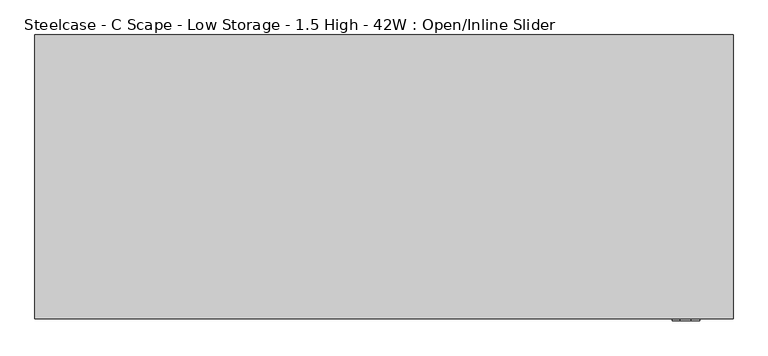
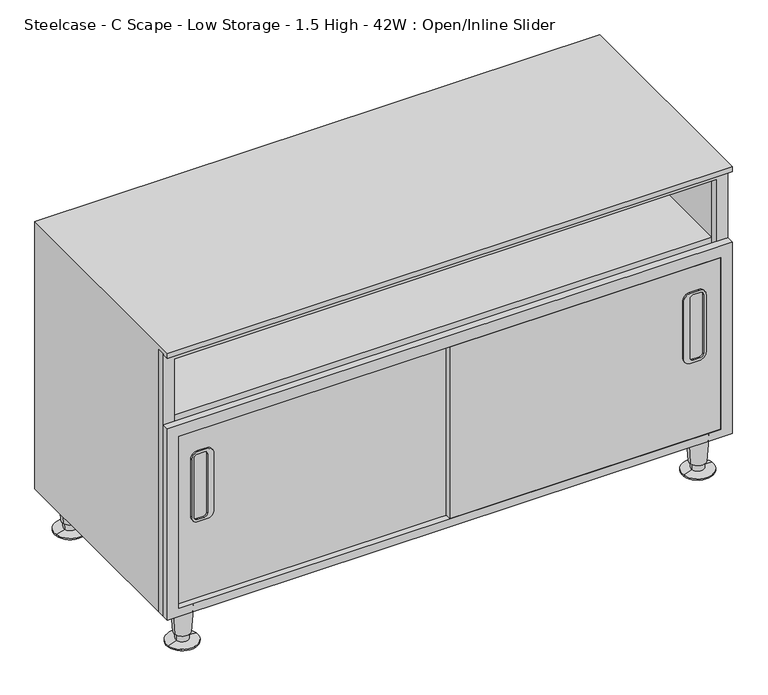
"""IFC4 building model written with IfcOpenShell, lengths in millimetres: furniture geometry, Steelcase - C Scape - Low Storage - 1.5 High - 42W : Open/Inline Slider."""

from ifc_helpers import new_model, si_unit, point, frame, frame_2d, origin, place, context, project, spatial, polyline, circle_curve, trimmed, segment, composite_curve, outline, extrude, faceted_brep, source, transform, mapped, element, save
from ifc_brep_helpers import plane_surface, cylinder_surface, revolved_surface, advanced_brep


def steelcase_c_scape_low_storage_1_5_high_42w_open_inline_7f5d4c98(model_context):
    return source(origin(), model_context, "Body", "SolidModel", [
        extrude(outline(composite_curve([segment(polyline([(373.5963095, 972.3248301), (259.2993979, 972.3248301)]), True, "CONTINUOUS"), segment(trimmed(circle_curve(frame_2d((259.2993979, 985.0263804)), 12.7015503), [point((259.2993979, 972.3248301))], [point((246.5978477, 985.0263804))], False, "CARTESIAN"), True, "CONTINUOUS"), segment(polyline([(246.5978477, 985.0263804), (246.5978477, 1001.9160471)]), True, "CONTINUOUS"), segment(trimmed(circle_curve(frame_2d((259.2970725, 1001.9160471)), 12.6992249), [point((246.5978477, 1001.9160471))], [point((259.2970725, 1014.615272))], False, "CARTESIAN"), True, "CONTINUOUS"), segment(polyline([(259.2970725, 1014.615272), (373.5986349, 1014.615272)]), True, "CONTINUOUS"), segment(trimmed(circle_curve(frame_2d((373.5986349, 1001.9160471)), 12.6992249), [point((373.5986349, 1014.615272))], [point((386.2978598, 1001.9160471))], False, "CARTESIAN"), True, "CONTINUOUS"), segment(polyline([(386.2978598, 1001.9160471), (386.2978598, 985.0263804)]), True, "CONTINUOUS"), segment(trimmed(circle_curve(frame_2d((373.5963095, 985.0263804)), 12.7015503), [point((386.2978598, 985.0263804))], [point((373.5963095, 972.3248301))], False, "CARTESIAN"), True, "CONTINUOUS")], self_intersect=False), holes=[composite_curve([segment(polyline([(257.7449507, 984.3915354), (375.0960362, 984.3915354)]), True, "CONTINUOUS"), segment(trimmed(circle_curve(frame_2d((375.0960362, 990.7399851)), 6.3484497), [point((375.0960362, 984.3915354))], [point((381.444486, 990.7399851))], True, "CARTESIAN"), True, "CONTINUOUS"), segment(polyline([(381.444486, 990.7399851), (381.444486, 1003.4415354)]), True, "CONTINUOUS"), segment(trimmed(circle_curve(frame_2d((375.0960362, 1003.4415354)), 6.3484497), [point((381.444486, 1003.4415354))], [point((375.0960362, 1009.7899851))], True, "CARTESIAN"), True, "CONTINUOUS"), segment(polyline([(375.0960362, 1009.7899851), (257.7449507, 1009.7899851)]), True, "CONTINUOUS"), segment(trimmed(circle_curve(frame_2d((257.7449507, 1003.4415354)), 6.3484497), [point((257.7449507, 1009.7899851))], [point((251.396501, 1003.4415354))], True, "CARTESIAN"), True, "CONTINUOUS"), segment(polyline([(251.396501, 1003.4415354), (251.396501, 990.7399851)]), True, "CONTINUOUS"), segment(trimmed(circle_curve(frame_2d((257.7449507, 990.7399851)), 6.3484497), [point((251.396501, 990.7399851))], [point((257.7449507, 984.3915354))], True, "CARTESIAN"), True, "CONTINUOUS")], self_intersect=False)]), frame((0.0, -436.1123329, 0.0), z_axis=(0.0, 1.0, 0.0), x_axis=(0.0, 0.0, 1.0)), (0.0, 0.0, 1.0), 3.0423329),
        extrude(outline(composite_curve([segment(trimmed(circle_curve(frame_2d((373.5963095, 79.8686196)), 12.7015503), [point((373.5963095, 92.5701699))], [point((386.2978598, 79.8686196))], False, "CARTESIAN"), True, "CONTINUOUS"), segment(polyline([(386.2978598, 79.8686196), (386.2978598, 62.9789529)]), True, "CONTINUOUS"), segment(trimmed(circle_curve(frame_2d((373.5986349, 62.9789529)), 12.6992249), [point((386.2978598, 62.9789529))], [point((373.5986349, 50.279728))], False, "CARTESIAN"), True, "CONTINUOUS"), segment(polyline([(373.5986349, 50.279728), (259.2970725, 50.279728)]), True, "CONTINUOUS"), segment(trimmed(circle_curve(frame_2d((259.2970725, 62.9789529)), 12.6992249), [point((259.2970725, 50.279728))], [point((246.5978477, 62.9789529))], False, "CARTESIAN"), True, "CONTINUOUS"), segment(polyline([(246.5978477, 62.9789529), (246.5978477, 79.8686196)]), True, "CONTINUOUS"), segment(trimmed(circle_curve(frame_2d((259.2993979, 79.8686196)), 12.7015503), [point((246.5978477, 79.8686196))], [point((259.2993979, 92.5701699))], False, "CARTESIAN"), True, "CONTINUOUS"), segment(polyline([(259.2993979, 92.5701699), (373.5963095, 92.5701699)]), True, "CONTINUOUS")], self_intersect=False), holes=[composite_curve([segment(trimmed(circle_curve(frame_2d((257.7449507, 74.1550149)), 6.3484497), [point((257.7449507, 80.5034646))], [point((251.396501, 74.1550149))], True, "CARTESIAN"), True, "CONTINUOUS"), segment(polyline([(251.396501, 74.1550149), (251.396501, 61.4534646)]), True, "CONTINUOUS"), segment(trimmed(circle_curve(frame_2d((257.7449507, 61.4534646)), 6.3484497), [point((251.396501, 61.4534646))], [point((257.7449507, 55.1050149))], True, "CARTESIAN"), True, "CONTINUOUS"), segment(polyline([(257.7449507, 55.1050149), (375.0960362, 55.1050149)]), True, "CONTINUOUS"), segment(trimmed(circle_curve(frame_2d((375.0960362, 61.4534646)), 6.3484497), [point((375.0960362, 55.1050149))], [point((381.444486, 61.4534646))], True, "CARTESIAN"), True, "CONTINUOUS"), segment(polyline([(381.444486, 61.4534646), (381.444486, 74.1550149)]), True, "CONTINUOUS"), segment(trimmed(circle_curve(frame_2d((375.0960362, 74.1550149)), 6.3484497), [point((381.444486, 74.1550149))], [point((375.0960362, 80.5034646))], True, "CARTESIAN"), True, "CONTINUOUS"), segment(polyline([(375.0960362, 80.5034646), (257.7449507, 80.5034646)]), True, "CONTINUOUS")], self_intersect=False)]), frame((0.0, -424.6923408, 0.0), z_axis=(0.0, 1.0, 0.0), x_axis=(0.0, 0.0, 1.0)), (0.0, 0.0, 1.0), 3.048),
        extrude(outline(polyline([(76.1999955, 0.0), (76.1999955, 1065.53), (458.7875121, 1065.53), (458.7875121, 0.0), (76.1999955, 0.0)]), holes=[polyline([(92.7100024, 1043.5617285), (92.7100024, 21.3382324), (435.8005068, 21.3382324), (435.8005068, 1043.5617285), (92.7100024, 1043.5617285)])]), frame((0.0, -433.07, 0.0), z_axis=(0.0, 1.0, 0.0), x_axis=(0.0, 0.0, 1.0)), (0.0, 0.0, 1.0), 13.7215265),
        extrude(outline(polyline([(599.44, 532.2710512), (599.44, 0.0), (76.1999955, 0.0), (76.1999955, 1065.53), (599.44, 1065.53), (599.44, 532.2710512)]), holes=[polyline([(92.7100024, 1043.5617285), (92.7100024, 21.3382324), (582.93, 21.3382324), (582.93, 1043.5617285), (92.7100024, 1043.5617285)])]), frame((0.0, -419.3484735, 0.0), z_axis=(0.0, 1.0, 0.0), x_axis=(0.0, 0.0, 1.0)), (0.0, 0.0, 1.0), 14.9862946),
        advanced_brep(
        [(1038.2598695, -31.5218435, 76.2), (1000.5981305, -37.2840847, 76.2), (1019.429, -34.4029641, 76.2), (1034.3095214, -32.1262463, 19.05), (1004.5484786, -36.6796819, 19.05), (1031.8799345, -32.4979728, 19.05), (1006.9780655, -36.3079555, 19.05), (1031.191165, -32.6033544, 5.7545598), (1007.666835, -36.2025738, 5.7545598), (1048.5400485, -29.9489775, 2.5119506), (990.3179515, -38.8569507, 2.5119506), (1048.5400485, -29.9489775, 0.0), (990.3179515, -38.8569507, 0.0), (1019.429, -34.4029641, 0.0)],
        [
            (0, 1, circle_curve(frame((1019.429, -34.4029641, 76.2), z_axis=(0.0, 0.0, 1.0), x_axis=(0.0, -1.0, 0.0)), 19.05)),
            (1, 2),
            (2, 0),
            (1, 0, circle_curve(frame((1019.429, -34.4029641, 76.2), z_axis=(0.0, 0.0, 1.0), x_axis=(0.0, -1.0, 0.0)), 19.05)),
            (3, 4, circle_curve(frame((1019.429, -34.4029641, 19.05), z_axis=(0.0, 0.0, 1.0), x_axis=(0.0, -1.0, 0.0)), 15.0536827)),
            (4, 1),
            (0, 3),
            (4, 3, circle_curve(frame((1019.429, -34.4029641, 19.05), z_axis=(0.0, 0.0, 1.0), x_axis=(0.0, -1.0, 0.0)), 15.0536827)),
            (5, 6, circle_curve(frame((1019.429, -34.4029641, 19.05), z_axis=(0.0, 0.0, 1.0), x_axis=(0.0, -1.0, 0.0)), 12.5958232)),
            (6, 4),
            (3, 5),
            (6, 5, circle_curve(frame((1019.429, -34.4029641, 19.05), z_axis=(0.0, 0.0, 1.0), x_axis=(0.0, -1.0, 0.0)), 12.5958232)),
            (7, 8, circle_curve(frame((1019.429, -34.4029641, 5.7545598), z_axis=(0.0, 0.0, 1.0), x_axis=(0.0, -1.0, 0.0)), 11.8990387)),
            (8, 6),
            (5, 7),
            (8, 7, circle_curve(frame((1019.429, -34.4029641, 5.7545598), z_axis=(0.0, 0.0, 1.0), x_axis=(0.0, -1.0, 0.0)), 11.8990387)),
            (9, 10, circle_curve(frame((1019.429, -34.4029641, 2.5119506), z_axis=(0.0, 0.0, 1.0), x_axis=(0.0, -1.0, 0.0)), 29.4498071)),
            (10, 8),
            (7, 9),
            (10, 9, circle_curve(frame((1019.429, -34.4029641, 2.5119506), z_axis=(0.0, 0.0, 1.0), x_axis=(0.0, -1.0, 0.0)), 29.4498071)),
            (11, 12, circle_curve(frame((1019.429, -34.4029641, 0.0), z_axis=(0.0, 0.0, 1.0), x_axis=(0.0, -1.0, 0.0)), 29.4498071)),
            (12, 10),
            (9, 11),
            (12, 11, circle_curve(frame((1019.429, -34.4029641, 0.0), z_axis=(0.0, 0.0, 1.0), x_axis=(0.0, -1.0, 0.0)), 29.4498071)),
            (13, 12),
            (11, 13),
        ],
        [
            plane_surface(frame((1019.429, -34.4029641, 76.2), z_axis=(0.0, 0.0, 1.0), x_axis=(0.0, -1.0, 0.0))),
            revolved_surface(polyline([(1019.429, -53.4529641, 76.2), (1019.429, -49.4566468, 19.05)]), (1019.429, -34.4029641, 25.4), (0.0, 0.0, -1.0)),
            plane_surface(frame((1019.429, -34.4029641, 19.05), z_axis=(0.0, 0.0, -1.0), x_axis=(0.0, -1.0, 0.0))),
            revolved_surface(polyline([(1019.429, -46.9987873, 19.05), (1019.429, -46.3020028, 5.7545598)]), (1019.429, -34.4029641, 25.4), (0.0, 0.0, -1.0)),
            revolved_surface(polyline([(1019.429, -46.3020028, 5.7545598), (1019.429, -63.8527712, 2.5119506)]), (1019.429, -34.4029641, 25.4), (0.0, 0.0, -1.0)),
            cylinder_surface(frame((1019.429, -34.4029641, 25.4), z_axis=(0.0, 0.0, -1.0), x_axis=(0.0, -1.0, 0.0)), 29.4498071),
            plane_surface(frame((1019.429, -34.4029641, 0.0), z_axis=(0.0, 0.0, -1.0), x_axis=(0.0, -1.0, 0.0))),
        ],
        [
            (0, [[1, 2, 3]]),
            (0, [[4, -3, -2]]),
            (1, [[5, 6, -1, 7]]),
            (1, [[8, -7, -4, -6]]),
            (2, [[9, 10, -5, 11]]),
            (2, [[12, -11, -8, -10]]),
            (3, [[13, 14, -9, 15]]),
            (3, [[16, -15, -12, -14]]),
            (4, [[17, 18, -13, 19]]),
            (4, [[20, -19, -16, -18]]),
            (5, [[21, 22, -17, 23]]),
            (5, [[24, -23, -20, -22]]),
            (6, [[25, -21, 26]]),
            (6, [[-26, -24, -25]]),
        ],
    ),
        advanced_brep(
        [(1038.2598695, -397.1702762, 76.2), (1000.5981305, -402.9325174, 76.2), (1019.429, -400.0513968, 76.2), (1034.3095214, -397.774679, 19.05), (1004.5484786, -402.3281146, 19.05), (1031.8799345, -398.1464055, 19.05), (1006.9780655, -401.9563882, 19.05), (1031.191165, -398.2517871, 5.7545598), (1007.666835, -401.8510065, 5.7545598), (1048.5400485, -395.5974102, 2.5119506), (990.3179515, -404.5053834, 2.5119506), (1048.5400485, -395.5974102, 0.0), (990.3179515, -404.5053834, 0.0), (1019.429, -400.0513968, 0.0)],
        [
            (0, 1, circle_curve(frame((1019.429, -400.0513968, 76.2), z_axis=(0.0, 0.0, 1.0), x_axis=(0.0, -1.0, 0.0)), 19.05)),
            (1, 2),
            (2, 0),
            (1, 0, circle_curve(frame((1019.429, -400.0513968, 76.2), z_axis=(0.0, 0.0, 1.0), x_axis=(0.0, -1.0, 0.0)), 19.05)),
            (3, 4, circle_curve(frame((1019.429, -400.0513968, 19.05), z_axis=(0.0, 0.0, 1.0), x_axis=(0.0, -1.0, 0.0)), 15.0536827)),
            (4, 1),
            (0, 3),
            (4, 3, circle_curve(frame((1019.429, -400.0513968, 19.05), z_axis=(0.0, 0.0, 1.0), x_axis=(0.0, -1.0, 0.0)), 15.0536827)),
            (5, 6, circle_curve(frame((1019.429, -400.0513968, 19.05), z_axis=(0.0, 0.0, 1.0), x_axis=(0.0, -1.0, 0.0)), 12.5958232)),
            (6, 4),
            (3, 5),
            (6, 5, circle_curve(frame((1019.429, -400.0513968, 19.05), z_axis=(0.0, 0.0, 1.0), x_axis=(0.0, -1.0, 0.0)), 12.5958232)),
            (7, 8, circle_curve(frame((1019.429, -400.0513968, 5.7545598), z_axis=(0.0, 0.0, 1.0), x_axis=(0.0, -1.0, 0.0)), 11.8990387)),
            (8, 6),
            (5, 7),
            (8, 7, circle_curve(frame((1019.429, -400.0513968, 5.7545598), z_axis=(0.0, 0.0, 1.0), x_axis=(0.0, -1.0, 0.0)), 11.8990387)),
            (9, 10, circle_curve(frame((1019.429, -400.0513968, 2.5119506), z_axis=(0.0, 0.0, 1.0), x_axis=(0.0, -1.0, 0.0)), 29.4498071)),
            (10, 8),
            (7, 9),
            (10, 9, circle_curve(frame((1019.429, -400.0513968, 2.5119506), z_axis=(0.0, 0.0, 1.0), x_axis=(0.0, -1.0, 0.0)), 29.4498071)),
            (11, 12, circle_curve(frame((1019.429, -400.0513968, 0.0), z_axis=(0.0, 0.0, 1.0), x_axis=(0.0, -1.0, 0.0)), 29.4498071)),
            (12, 10),
            (9, 11),
            (12, 11, circle_curve(frame((1019.429, -400.0513968, 0.0), z_axis=(0.0, 0.0, 1.0), x_axis=(0.0, -1.0, 0.0)), 29.4498071)),
            (13, 12),
            (11, 13),
        ],
        [
            plane_surface(frame((1019.429, -400.0513968, 76.2), z_axis=(0.0, 0.0, 1.0), x_axis=(0.0, -1.0, 0.0))),
            revolved_surface(polyline([(1019.429, -419.1013968, 76.2), (1019.429, -415.1050795, 19.05)]), (1019.429, -400.0513968, 25.4), (0.0, 0.0, -1.0)),
            plane_surface(frame((1019.429, -400.0513968, 19.05), z_axis=(0.0, 0.0, -1.0), x_axis=(0.0, -1.0, 0.0))),
            revolved_surface(polyline([(1019.429, -412.64722, 19.05), (1019.429, -411.9504355, 5.7545598)]), (1019.429, -400.0513968, 25.4), (0.0, 0.0, -1.0)),
            revolved_surface(polyline([(1019.429, -411.9504355, 5.7545598), (1019.429, -429.5012039, 2.5119506)]), (1019.429, -400.0513968, 25.4), (0.0, 0.0, -1.0)),
            cylinder_surface(frame((1019.429, -400.0513968, 25.4), z_axis=(0.0, 0.0, -1.0), x_axis=(0.0, -1.0, 0.0)), 29.4498071),
            plane_surface(frame((1019.429, -400.0513968, 0.0), z_axis=(0.0, 0.0, -1.0), x_axis=(0.0, -1.0, 0.0))),
        ],
        [
            (0, [[1, 2, 3]]),
            (0, [[4, -3, -2]]),
            (1, [[5, 6, -1, 7]]),
            (1, [[8, -7, -4, -6]]),
            (2, [[9, 10, -5, 11]]),
            (2, [[12, -11, -8, -10]]),
            (3, [[13, 14, -9, 15]]),
            (3, [[16, -15, -12, -14]]),
            (4, [[17, 18, -13, 19]]),
            (4, [[20, -19, -16, -18]]),
            (5, [[21, 22, -17, 23]]),
            (5, [[24, -23, -20, -22]]),
            (6, [[25, -21, 26]]),
            (6, [[-26, -24, -25]]),
        ],
    ),
        advanced_brep(
        [(65.5422821, -397.1702762, 76.2), (27.8805432, -402.9325174, 76.2), (46.7114126, -400.0513968, 76.2), (61.5919341, -397.774679, 19.05), (31.8308912, -402.3281146, 19.05), (59.1623471, -398.1464055, 19.05), (34.2604781, -401.9563882, 19.05), (58.4735776, -398.2517871, 5.7545598), (34.9492476, -401.8510065, 5.7545598), (75.8224611, -395.5974102, 2.5119506), (17.6003641, -404.5053834, 2.5119506), (75.8224611, -395.5974102, 0.0), (17.6003641, -404.5053834, 0.0), (46.7114126, -400.0513968, 0.0)],
        [
            (0, 1, circle_curve(frame((46.7114126, -400.0513968, 76.2), z_axis=(0.0, 0.0, 1.0), x_axis=(0.0, -1.0, 0.0)), 19.05)),
            (1, 2),
            (2, 0),
            (1, 0, circle_curve(frame((46.7114126, -400.0513968, 76.2), z_axis=(0.0, 0.0, 1.0), x_axis=(0.0, -1.0, 0.0)), 19.05)),
            (3, 4, circle_curve(frame((46.7114126, -400.0513968, 19.05), z_axis=(0.0, 0.0, 1.0), x_axis=(0.0, -1.0, 0.0)), 15.0536827)),
            (4, 1),
            (0, 3),
            (4, 3, circle_curve(frame((46.7114126, -400.0513968, 19.05), z_axis=(0.0, 0.0, 1.0), x_axis=(0.0, -1.0, 0.0)), 15.0536827)),
            (5, 6, circle_curve(frame((46.7114126, -400.0513968, 19.05), z_axis=(0.0, 0.0, 1.0), x_axis=(0.0, -1.0, 0.0)), 12.5958232)),
            (6, 4),
            (3, 5),
            (6, 5, circle_curve(frame((46.7114126, -400.0513968, 19.05), z_axis=(0.0, 0.0, 1.0), x_axis=(0.0, -1.0, 0.0)), 12.5958232)),
            (7, 8, circle_curve(frame((46.7114126, -400.0513968, 5.7545598), z_axis=(0.0, 0.0, 1.0), x_axis=(0.0, -1.0, 0.0)), 11.8990387)),
            (8, 6),
            (5, 7),
            (8, 7, circle_curve(frame((46.7114126, -400.0513968, 5.7545598), z_axis=(0.0, 0.0, 1.0), x_axis=(0.0, -1.0, 0.0)), 11.8990387)),
            (9, 10, circle_curve(frame((46.7114126, -400.0513968, 2.5119506), z_axis=(0.0, 0.0, 1.0), x_axis=(0.0, -1.0, 0.0)), 29.4498071)),
            (10, 8),
            (7, 9),
            (10, 9, circle_curve(frame((46.7114126, -400.0513968, 2.5119506), z_axis=(0.0, 0.0, 1.0), x_axis=(0.0, -1.0, 0.0)), 29.4498071)),
            (11, 12, circle_curve(frame((46.7114126, -400.0513968, 0.0), z_axis=(0.0, 0.0, 1.0), x_axis=(0.0, -1.0, 0.0)), 29.4498071)),
            (12, 10),
            (9, 11),
            (12, 11, circle_curve(frame((46.7114126, -400.0513968, 0.0), z_axis=(0.0, 0.0, 1.0), x_axis=(0.0, -1.0, 0.0)), 29.4498071)),
            (13, 12),
            (11, 13),
        ],
        [
            plane_surface(frame((46.7114126, -400.0513968, 76.2), z_axis=(0.0, 0.0, 1.0), x_axis=(0.0, -1.0, 0.0))),
            revolved_surface(polyline([(46.7114126, -419.1013968, 76.2), (46.7114126, -415.1050795, 19.05)]), (46.7114126, -400.0513968, 25.4), (0.0, 0.0, -1.0)),
            plane_surface(frame((46.7114126, -400.0513968, 19.05), z_axis=(0.0, 0.0, -1.0), x_axis=(0.0, -1.0, 0.0))),
            revolved_surface(polyline([(46.7114126, -412.64722, 19.05), (46.7114126, -411.9504355, 5.7545598)]), (46.7114126, -400.0513968, 25.4), (0.0, 0.0, -1.0)),
            revolved_surface(polyline([(46.7114126, -411.9504355, 5.7545598), (46.7114126, -429.5012039, 2.5119506)]), (46.7114126, -400.0513968, 25.4), (0.0, 0.0, -1.0)),
            cylinder_surface(frame((46.7114126, -400.0513968, 25.4), z_axis=(0.0, 0.0, -1.0), x_axis=(0.0, -1.0, 0.0)), 29.4498071),
            plane_surface(frame((46.7114126, -400.0513968, 0.0), z_axis=(0.0, 0.0, -1.0), x_axis=(0.0, -1.0, 0.0))),
        ],
        [
            (0, [[1, 2, 3]]),
            (0, [[4, -3, -2]]),
            (1, [[5, 6, -1, 7]]),
            (1, [[8, -7, -4, -6]]),
            (2, [[9, 10, -5, 11]]),
            (2, [[12, -11, -8, -10]]),
            (3, [[13, 14, -9, 15]]),
            (3, [[16, -15, -12, -14]]),
            (4, [[17, 18, -13, 19]]),
            (4, [[20, -19, -16, -18]]),
            (5, [[21, 22, -17, 23]]),
            (5, [[24, -23, -20, -22]]),
            (6, [[25, -21, 26]]),
            (6, [[-26, -24, -25]]),
        ],
    ),
        advanced_brep(
        [(65.5422821, -31.5218435, 76.2), (27.8805432, -37.2840847, 76.2), (46.7114126, -34.4029641, 76.2), (61.5919341, -32.1262463, 19.05), (31.8308912, -36.6796819, 19.05), (59.1623471, -32.4979728, 19.05), (34.2604781, -36.3079555, 19.05), (58.4735776, -32.6033544, 5.7545598), (34.9492476, -36.2025738, 5.7545598), (75.8224611, -29.9489775, 2.5119506), (17.6003641, -38.8569507, 2.5119506), (75.8224611, -29.9489775, 0.0), (17.6003641, -38.8569507, 0.0), (46.7114126, -34.4029641, 0.0)],
        [
            (0, 1, circle_curve(frame((46.7114126, -34.4029641, 76.2), z_axis=(0.0, 0.0, 1.0), x_axis=(0.0, -1.0, 0.0)), 19.05)),
            (1, 2),
            (2, 0),
            (1, 0, circle_curve(frame((46.7114126, -34.4029641, 76.2), z_axis=(0.0, 0.0, 1.0), x_axis=(0.0, -1.0, 0.0)), 19.05)),
            (3, 4, circle_curve(frame((46.7114126, -34.4029641, 19.05), z_axis=(0.0, 0.0, 1.0), x_axis=(0.0, -1.0, 0.0)), 15.0536827)),
            (4, 1),
            (0, 3),
            (4, 3, circle_curve(frame((46.7114126, -34.4029641, 19.05), z_axis=(0.0, 0.0, 1.0), x_axis=(0.0, -1.0, 0.0)), 15.0536827)),
            (5, 6, circle_curve(frame((46.7114126, -34.4029641, 19.05), z_axis=(0.0, 0.0, 1.0), x_axis=(0.0, -1.0, 0.0)), 12.5958232)),
            (6, 4),
            (3, 5),
            (6, 5, circle_curve(frame((46.7114126, -34.4029641, 19.05), z_axis=(0.0, 0.0, 1.0), x_axis=(0.0, -1.0, 0.0)), 12.5958232)),
            (7, 8, circle_curve(frame((46.7114126, -34.4029641, 5.7545598), z_axis=(0.0, 0.0, 1.0), x_axis=(0.0, -1.0, 0.0)), 11.8990387)),
            (8, 6),
            (5, 7),
            (8, 7, circle_curve(frame((46.7114126, -34.4029641, 5.7545598), z_axis=(0.0, 0.0, 1.0), x_axis=(0.0, -1.0, 0.0)), 11.8990387)),
            (9, 10, circle_curve(frame((46.7114126, -34.4029641, 2.5119506), z_axis=(0.0, 0.0, 1.0), x_axis=(0.0, -1.0, 0.0)), 29.4498071)),
            (10, 8),
            (7, 9),
            (10, 9, circle_curve(frame((46.7114126, -34.4029641, 2.5119506), z_axis=(0.0, 0.0, 1.0), x_axis=(0.0, -1.0, 0.0)), 29.4498071)),
            (11, 12, circle_curve(frame((46.7114126, -34.4029641, 0.0), z_axis=(0.0, 0.0, 1.0), x_axis=(0.0, -1.0, 0.0)), 29.4498071)),
            (12, 10),
            (9, 11),
            (12, 11, circle_curve(frame((46.7114126, -34.4029641, 0.0), z_axis=(0.0, 0.0, 1.0), x_axis=(0.0, -1.0, 0.0)), 29.4498071)),
            (13, 12),
            (11, 13),
        ],
        [
            plane_surface(frame((46.7114126, -34.4029641, 76.2), z_axis=(0.0, 0.0, 1.0), x_axis=(0.0, -1.0, 0.0))),
            revolved_surface(polyline([(46.7114126, -53.4529641, 76.2), (46.7114126, -49.4566468, 19.05)]), (46.7114126, -34.4029641, 25.4), (0.0, 0.0, -1.0)),
            plane_surface(frame((46.7114126, -34.4029641, 19.05), z_axis=(0.0, 0.0, -1.0), x_axis=(0.0, -1.0, 0.0))),
            revolved_surface(polyline([(46.7114126, -46.9987873, 19.05), (46.7114126, -46.3020028, 5.7545598)]), (46.7114126, -34.4029641, 25.4), (0.0, 0.0, -1.0)),
            revolved_surface(polyline([(46.7114126, -46.3020028, 5.7545598), (46.7114126, -63.8527712, 2.5119506)]), (46.7114126, -34.4029641, 25.4), (0.0, 0.0, -1.0)),
            cylinder_surface(frame((46.7114126, -34.4029641, 25.4), z_axis=(0.0, 0.0, -1.0), x_axis=(0.0, -1.0, 0.0)), 29.4498071),
            plane_surface(frame((46.7114126, -34.4029641, 0.0), z_axis=(0.0, 0.0, -1.0), x_axis=(0.0, -1.0, 0.0))),
        ],
        [
            (0, [[1, 2, 3]]),
            (0, [[4, -3, -2]]),
            (1, [[5, 6, -1, 7]]),
            (1, [[8, -7, -4, -6]]),
            (2, [[9, 10, -5, 11]]),
            (2, [[12, -11, -8, -10]]),
            (3, [[13, 14, -9, 15]]),
            (3, [[16, -15, -12, -14]]),
            (4, [[17, 18, -13, 19]]),
            (4, [[20, -19, -16, -18]]),
            (5, [[21, 22, -17, 23]]),
            (5, [[24, -23, -20, -22]]),
            (6, [[25, -21, 26]]),
            (6, [[-26, -24, -25]]),
        ],
    ),
        extrude(outline(polyline([(532.4475, -422.5233329), (1043.5617285, -422.5233329), (1043.5617285, -433.07), (532.4475, -433.07), (532.4475, -422.5233329)])), frame((0.0, 0.0, 92.7100024), z_axis=(0.0, 0.0, 1.0), x_axis=(1.0, 0.0, 0.0)), (0.0, 0.0, 1.0), 343.0905044),
        extrude(outline(polyline([(532.4475, -415.2912402), (532.4475, -421.6443408), (21.3382324, -421.6443408), (21.3382324, -415.2912402), (532.4475, -415.2912402)])), frame((0.0, 0.0, 92.7100024), z_axis=(0.0, 0.0, 1.0), x_axis=(1.0, 0.0, 0.0)), (0.0, 0.0, 1.0), 343.0905044),
        faceted_brep([(1065.53, 0.0, 609.6), (0.0, 0.0, 609.6), (0.0, -433.07, 609.6), (1065.53, -433.07, 609.6), (1065.53, 0.0, 458.7875121), (1065.53, 0.0, 435.8005068), (1065.53, 0.0, 76.2), (0.0, 0.0, 76.2), (0.0, 0.0, 435.8005068), (0.0, 0.0, 458.7875121), (0.0, -404.362179, 76.2), (0.0, -404.362179, 599.44), (0.0, -433.07, 599.44), (1065.53, -433.07, 599.44), (1065.53, -404.362179, 599.44), (1065.53, -404.362179, 76.2), (21.3382324, -404.362179, 92.7100024), (21.3382324, -9.525, 92.7100024), (21.3382324, -9.525, 435.8005068), (21.3382324, -404.362179, 435.8005068), (21.3382324, -9.525, 599.44), (21.3382324, -404.362179, 599.44), (21.3382324, -404.362179, 458.7875121), (21.3382324, -9.525, 458.7875121), (1043.5617285, -9.525, 92.7100024), (1043.5617285, -9.525, 435.8005068), (1043.5617285, -9.525, 599.44), (1043.5617285, -9.525, 458.7875121), (1043.5617285, -404.362179, 92.7100024), (1043.5617285, -404.362179, 435.8005068), (1043.5617285, -404.362179, 599.44), (1043.5617285, -404.362179, 458.7875121)], [[[0, 1, 2, 3]], [[1, 0, 4, 5, 6, 7, 8, 9]], [[2, 1, 9, 8, 7, 10, 11, 12]], [[3, 2, 12, 13]], [[0, 3, 13, 14, 15, 6, 5, 4]], [[16, 17, 18, 19]], [[20, 21, 22, 23]], [[17, 24, 25, 18]], [[26, 20, 23, 27]], [[24, 28, 29, 25]], [[30, 26, 27, 31]], [[16, 28, 24, 17]], [[22, 31, 27, 23]], [[29, 19, 18, 25]], [[30, 31, 22, 21, 11, 10, 15, 14], [28, 16, 19, 29]], [[6, 15, 10, 7]], [[13, 12, 11, 21, 20, 26, 30, 14]]]),
    ])


if __name__ == "__main__":
    model = new_model("IFC4")
    model_context = context("Model", 3, world=origin())
    ifc_project = project(units=[si_unit("LENGTHUNIT", "METRE", prefix="MILLI")], contexts=[model_context])
    site = spatial("IfcSite", under=ifc_project)
    building = spatial("IfcBuilding", under=site)
    placement = place(None, origin())
    steelcase_c_scape_low_storage_1_5_high_42w_open_inline_shape = steelcase_c_scape_low_storage_1_5_high_42w_open_inline_7f5d4c98(model_context)
    element("IfcFurniture", 1, ObjectType="Steelcase - C Scape - Low Storage - 1.5 High - 42W : Open/Inline Slider", at=placement, inside=building, context=model_context, shape_type="MappedRepresentation", body=[
        mapped(steelcase_c_scape_low_storage_1_5_high_42w_open_inline_shape, transform((0.0, 0.0, 0.0), x_axis=(1.0, 0.0, 0.0), y_axis=(0.0, 1.0, 0.0), z_axis=(0.0, 0.0, 1.0))),
    ])
    save(model, "model.ifc")
